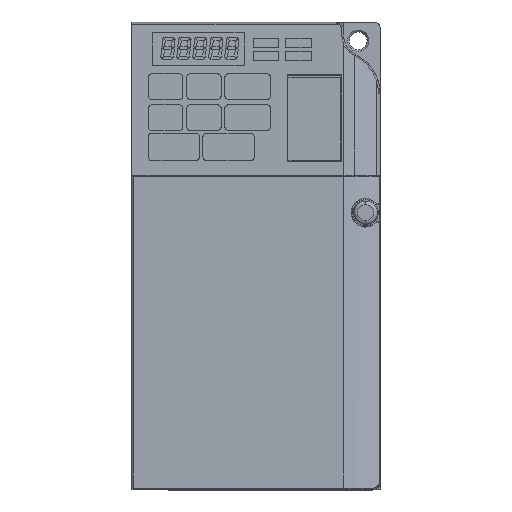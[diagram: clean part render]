
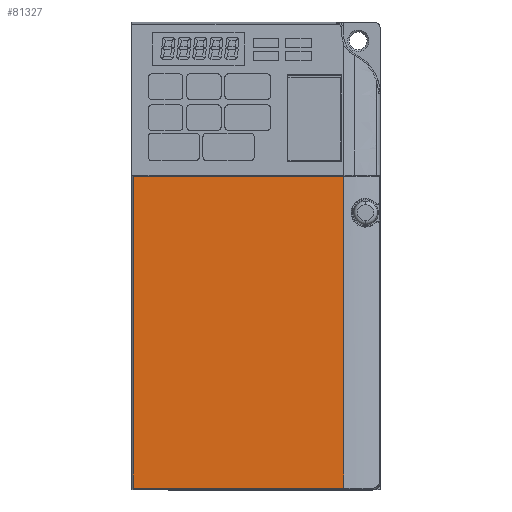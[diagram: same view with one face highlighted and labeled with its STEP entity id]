
A CAD part, top view. The second image highlights one B-rep face of the part: STEP entity #81327.
In plain terms, the highlighted planar face has unit normal (0, 0, 1).
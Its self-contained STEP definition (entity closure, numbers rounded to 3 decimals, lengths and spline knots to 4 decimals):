
#80307=DIRECTION('',(0.,-1.,0.));
#80308=VECTOR('',#80307,3.3614);
#80309=CARTESIAN_POINT('',(0.0952,2.6299,
5.5118));
#80310=LINE('',#80309,#80308);
#80467=DIRECTION('',(0.,1.,0.));
#80468=VECTOR('',#80467,3.3614);
#80469=CARTESIAN_POINT('',(2.3622,-0.7315,
5.5118));
#80470=LINE('',#80469,#80468);
#80490=DIRECTION('',(-1.,0.,0.));
#80491=VECTOR('',#80490,2.267);
#80492=CARTESIAN_POINT('',(2.3622,-0.7315,
5.5118));
#80493=LINE('',#80492,#80491);
#80494=DIRECTION('',(1.,0.,0.));
#80495=VECTOR('',#80494,2.267);
#80496=CARTESIAN_POINT('',(0.0952,2.6299,
5.5118));
#80497=LINE('',#80496,#80495);
#80862=CARTESIAN_POINT('',(0.0952,-0.7315,
5.5118));
#80863=VERTEX_POINT('',#80862);
#80864=CARTESIAN_POINT('',(2.3622,-0.7315,
5.5118));
#80865=VERTEX_POINT('',#80864);
#80887=CARTESIAN_POINT('',(0.0952,2.6299,
5.5118));
#80888=VERTEX_POINT('',#80887);
#80935=CARTESIAN_POINT('',(2.3622,2.6299,5.5118));
#80936=VERTEX_POINT('',#80935);
#81315=CARTESIAN_POINT('',(0.0787,-0.748,
5.5118));
#81316=DIRECTION('',(0.,0.,1.));
#81317=DIRECTION('',(1.,0.,0.));
#81318=AXIS2_PLACEMENT_3D('',#81315,#81316,#81317);
#81319=PLANE('',#81318);
#81320=ORIENTED_EDGE('',*,*,#81300,.F.);
#81321=ORIENTED_EDGE('',*,*,#81043,.T.);
#81322=ORIENTED_EDGE('',*,*,#81094,.F.);
#81324=ORIENTED_EDGE('',*,*,#81323,.T.);
#81325=EDGE_LOOP('',(#81320,#81321,#81322,#81324));
#81326=FACE_OUTER_BOUND('',#81325,.F.);
#81327=ADVANCED_FACE('',(#81326),#81319,.T.);
#81043=EDGE_CURVE('',#80865,#80863,#80493,.T.);
#81094=EDGE_CURVE('',#80888,#80863,#80310,.T.);
#81300=EDGE_CURVE('',#80865,#80936,#80470,.T.);
#81323=EDGE_CURVE('',#80888,#80936,#80497,.T.);
